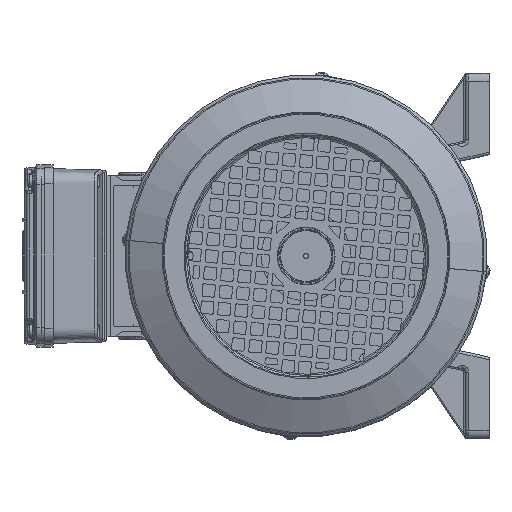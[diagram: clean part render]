
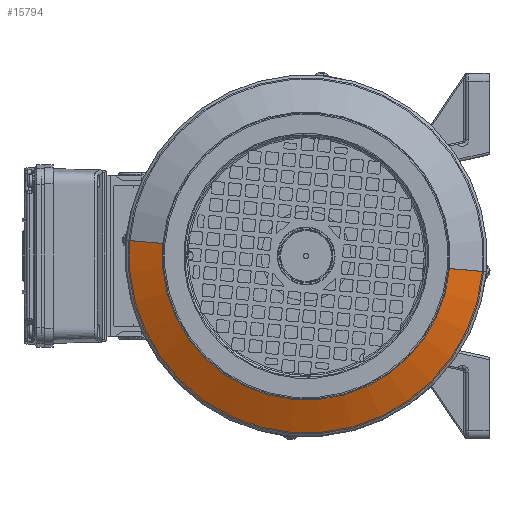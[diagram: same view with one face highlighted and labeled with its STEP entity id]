
A CAD part, left-side view. The second image highlights one B-rep face of the part: STEP entity #15794.
In plain terms, the highlighted conical face has half-angle 64 degrees and reference radius 109.115 mm.
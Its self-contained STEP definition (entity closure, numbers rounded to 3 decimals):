
#480 = VECTOR ( 'NONE', #84936, 1000. ) ;
#1391 = CARTESIAN_POINT ( 'NONE',  ( 0., 10.542, 0. ) ) ;
#3826 = CARTESIAN_POINT ( 'NONE',  ( -88.123, 0.304, 0. ) ) ;
#11874 = CARTESIAN_POINT ( 'NONE',  ( 0., 0.304, 0. ) ) ;
#12434 = VERTEX_POINT ( 'NONE', #94791 ) ;
#15794 = ADVANCED_FACE ( 'NONE', ( #83431 ), #44141, .T. ) ;
#16847 = CARTESIAN_POINT ( 'NONE',  ( 109.115, 10.542, 0. ) ) ;
#23419 = EDGE_CURVE ( 'NONE', #12434, #74932, #61154, .T. ) ;
#23808 = DIRECTION ( 'NONE',  ( -1., 0., 0. ) ) ;
#33106 = VECTOR ( 'NONE', #112463, 1000. ) ;
#41914 = AXIS2_PLACEMENT_3D ( 'NONE', #69262, #152892, #81313 ) ;
#44141 = CONICAL_SURFACE ( 'NONE', #134177, 109.115, 1.117 ) ;
#47994 = CARTESIAN_POINT ( 'NONE',  ( 109.115, 10.542, 0. ) ) ;
#48252 = EDGE_LOOP ( 'NONE', ( #113842, #56098, #94422, #56879 ) ) ;
#48869 = DIRECTION ( 'NONE',  ( -1., 0., 0. ) ) ;
#49396 = CARTESIAN_POINT ( 'NONE',  ( -109.115, 10.542, 0. ) ) ;
#50493 = VERTEX_POINT ( 'NONE', #3826 ) ;
#56098 = ORIENTED_EDGE ( 'NONE', *, *, #149110, .T. ) ;
#56879 = ORIENTED_EDGE ( 'NONE', *, *, #113158, .F. ) ;
#61154 = LINE ( 'NONE', #16847, #33106 ) ;
#69262 = CARTESIAN_POINT ( 'NONE',  ( 0., 10.542, 0. ) ) ;
#72892 = DIRECTION ( 'NONE',  ( 0., 1., 0. ) ) ;
#74932 = VERTEX_POINT ( 'NONE', #47994 ) ;
#81313 = DIRECTION ( 'NONE',  ( -1., 0., 0. ) ) ;
#83375 = CARTESIAN_POINT ( 'NONE',  ( -109.115, 10.542, 0. ) ) ;
#83431 = FACE_OUTER_BOUND ( 'NONE', #48252, .T. ) ;
#84936 = DIRECTION ( 'NONE',  ( -0.899, 0.438, 0. ) ) ;
#87414 = EDGE_CURVE ( 'NONE', #50493, #113255, #127554, .T. ) ;
#94422 = ORIENTED_EDGE ( 'NONE', *, *, #87414, .T. ) ;
#94791 = CARTESIAN_POINT ( 'NONE',  ( 88.123, 0.304, 0. ) ) ;
#95486 = DIRECTION ( 'NONE',  ( 0., 1., 0. ) ) ;
#112463 = DIRECTION ( 'NONE',  ( 0.899, 0.438, 0. ) ) ;
#113158 = EDGE_CURVE ( 'NONE', #74932, #113255, #148207, .T. ) ;
#113255 = VERTEX_POINT ( 'NONE', #83375 ) ;
#113842 = ORIENTED_EDGE ( 'NONE', *, *, #23419, .F. ) ;
#127554 = LINE ( 'NONE', #49396, #480 ) ;
#134177 = AXIS2_PLACEMENT_3D ( 'NONE', #1391, #72892, #48869 ) ;
#148207 = CIRCLE ( 'NONE', #41914, 109.115 ) ;
#149110 = EDGE_CURVE ( 'NONE', #12434, #50493, #152551, .T. ) ;
#152142 = AXIS2_PLACEMENT_3D ( 'NONE', #11874, #95486, #23808 ) ;
#152551 = CIRCLE ( 'NONE', #152142, 88.123 ) ;
#152892 = DIRECTION ( 'NONE',  ( 0., 1., 0. ) ) ;
